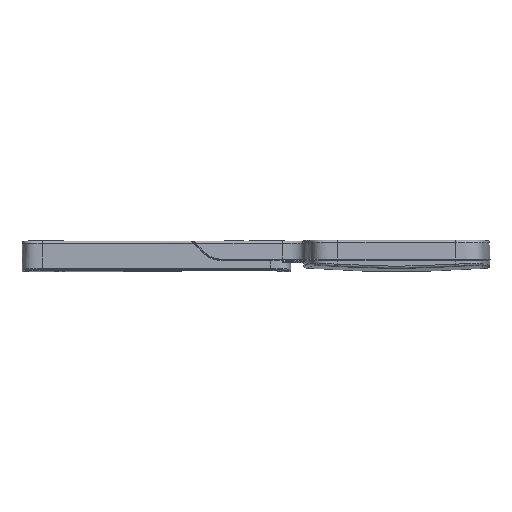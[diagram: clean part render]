
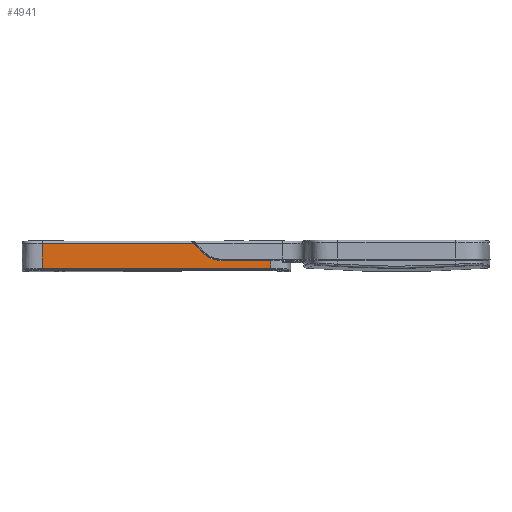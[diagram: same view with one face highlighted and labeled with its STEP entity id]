
A CAD part, top view. The second image highlights one B-rep face of the part: STEP entity #4941.
In plain terms, the highlighted planar face has unit normal (0, 0, 1).
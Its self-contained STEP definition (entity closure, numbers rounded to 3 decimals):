
#49 = CARTESIAN_POINT ( 'NONE',  ( -144.882, -3.472, 11.498 ) ) ;
#1355 = LINE ( 'NONE', #9555, #13740 ) ;
#2360 = LINE ( 'NONE', #8673, #11150 ) ;
#2575 = EDGE_CURVE ( 'NONE', #23247, #25696, #17840, .T. ) ;
#2841 = VERTEX_POINT ( 'NONE', #26410 ) ;
#2919 = DIRECTION ( 'NONE',  ( 0., 0., 1. ) ) ;
#3006 = VERTEX_POINT ( 'NONE', #20746 ) ;
#3248 = CARTESIAN_POINT ( 'NONE',  ( -144.882, -5.879, 11.498 ) ) ;
#4047 = EDGE_LOOP ( 'NONE', ( #5907, #12193, #16452, #15322, #19355, #4489, #5550 ) ) ;
#4489 = ORIENTED_EDGE ( 'NONE', *, *, #13767, .F. ) ;
#4941 = ADVANCED_FACE ( 'NONE', ( #25114 ), #24984, .T. ) ;
#4944 = CARTESIAN_POINT ( 'NONE',  ( -51.562, 5.3, 11.498 ) ) ;
#5482 = VERTEX_POINT ( 'NONE', #19107 ) ;
#5536 = VECTOR ( 'NONE', #17965, 1000. ) ;
#5550 = ORIENTED_EDGE ( 'NONE', *, *, #6478, .T. ) ;
#5647 = CARTESIAN_POINT ( 'NONE',  ( -71.808, 7.504, 11.498 ) ) ;
#5772 = VERTEX_POINT ( 'NONE', #17737 ) ;
#5907 = ORIENTED_EDGE ( 'NONE', *, *, #2575, .F. ) ;
#6478 = EDGE_CURVE ( 'NONE', #22728, #25696, #1355, .T. ) ;
#6554 = EDGE_CURVE ( 'NONE', #3006, #5772, #8585, .T. ) ;
#6917 = AXIS2_PLACEMENT_3D ( 'NONE', #4944, #2919, #8844 ) ;
#7528 = DIRECTION ( 'NONE',  ( 0., 0., -1. ) ) ;
#8573 = VECTOR ( 'NONE', #18762, 1000. ) ;
#8585 = CIRCLE ( 'NONE', #13303, 10.2 ) ;
#8673 = CARTESIAN_POINT ( 'NONE',  ( -51.562, -2.696, 11.498 ) ) ;
#8844 = DIRECTION ( 'NONE',  ( 0., -1., 0. ) ) ;
#9555 = CARTESIAN_POINT ( 'NONE',  ( -51.562, -5.879, 11.498 ) ) ;
#11150 = VECTOR ( 'NONE', #16866, 1000. ) ;
#12193 = ORIENTED_EDGE ( 'NONE', *, *, #21688, .T. ) ;
#13303 = AXIS2_PLACEMENT_3D ( 'NONE', #5647, #7528, #15983 ) ;
#13740 = VECTOR ( 'NONE', #17743, 1000. ) ;
#13767 = EDGE_CURVE ( 'NONE', #22728, #2841, #18583, .T. ) ;
#14874 = CARTESIAN_POINT ( 'NONE',  ( -51.562, 4.3, 11.498 ) ) ;
#15322 = ORIENTED_EDGE ( 'NONE', *, *, #15333, .T. ) ;
#15333 = EDGE_CURVE ( 'NONE', #5772, #5482, #23205, .T. ) ;
#15983 = DIRECTION ( 'NONE',  ( 0., -1., 0. ) ) ;
#16452 = ORIENTED_EDGE ( 'NONE', *, *, #6554, .T. ) ;
#16866 = DIRECTION ( 'NONE',  ( -1., 0., 0. ) ) ;
#17282 = DIRECTION ( 'NONE',  ( -0.707, 0.707, 0. ) ) ;
#17737 = CARTESIAN_POINT ( 'NONE',  ( -79.021, 0.291, 11.498 ) ) ;
#17743 = DIRECTION ( 'NONE',  ( 1., 0., 0. ) ) ;
#17840 = LINE ( 'NONE', #22269, #5536 ) ;
#17965 = DIRECTION ( 'NONE',  ( 0., -1., 0. ) ) ;
#18583 = LINE ( 'NONE', #49, #20522 ) ;
#18762 = DIRECTION ( 'NONE',  ( -1., 0., 0. ) ) ;
#19030 = LINE ( 'NONE', #14874, #8573 ) ;
#19107 = CARTESIAN_POINT ( 'NONE',  ( -83.029, 4.3, 11.498 ) ) ;
#19188 = CARTESIAN_POINT ( 'NONE',  ( -51.562, -2.696, 11.498 ) ) ;
#19355 = ORIENTED_EDGE ( 'NONE', *, *, #21103, .T. ) ;
#20522 = VECTOR ( 'NONE', #25051, 1000. ) ;
#20746 = CARTESIAN_POINT ( 'NONE',  ( -71.808, -2.696, 11.498 ) ) ;
#21103 = EDGE_CURVE ( 'NONE', #5482, #2841, #19030, .T. ) ;
#21306 = CARTESIAN_POINT ( 'NONE',  ( -82.888, 4.159, 11.498 ) ) ;
#21688 = EDGE_CURVE ( 'NONE', #23247, #3006, #2360, .T. ) ;
#22262 = VECTOR ( 'NONE', #17282, 1000. ) ;
#22269 = CARTESIAN_POINT ( 'NONE',  ( -51.562, -3.472, 11.498 ) ) ;
#22728 = VERTEX_POINT ( 'NONE', #3248 ) ;
#23205 = LINE ( 'NONE', #21306, #22262 ) ;
#23247 = VERTEX_POINT ( 'NONE', #19188 ) ;
#24984 = PLANE ( 'NONE',  #6917 ) ;
#25051 = DIRECTION ( 'NONE',  ( 0., 1., 0. ) ) ;
#25114 = FACE_OUTER_BOUND ( 'NONE', #4047, .T. ) ;
#25696 = VERTEX_POINT ( 'NONE', #25894 ) ;
#25894 = CARTESIAN_POINT ( 'NONE',  ( -51.562, -5.879, 11.498 ) ) ;
#26410 = CARTESIAN_POINT ( 'NONE',  ( -144.882, 4.3, 11.498 ) ) ;
